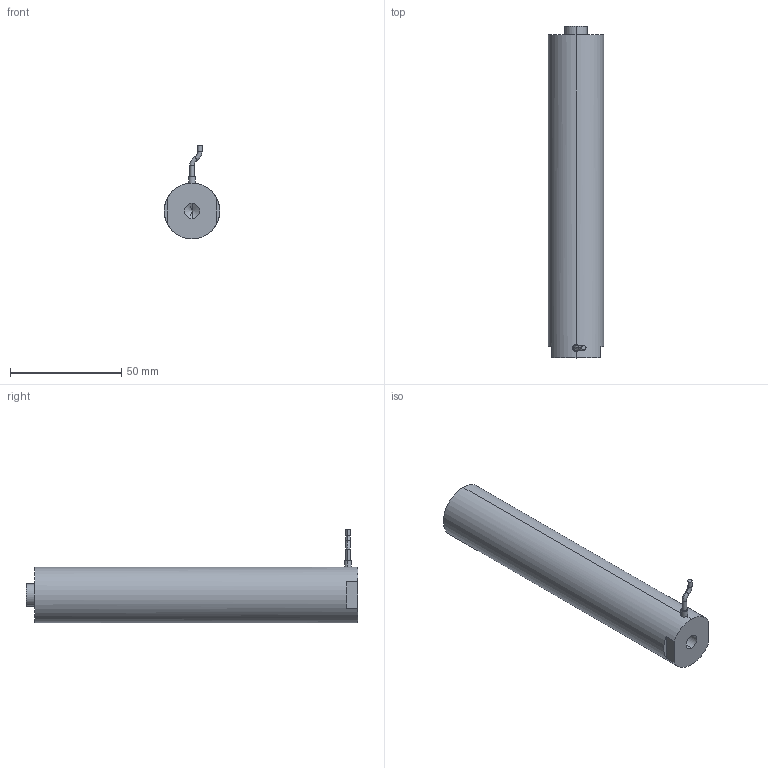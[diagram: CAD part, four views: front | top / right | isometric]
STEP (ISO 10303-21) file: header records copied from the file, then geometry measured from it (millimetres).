
FILE_DESCRIPTION (( 'STEP AP203' ), '1' );
FILE_NAME ('ﾆｽﾍｷﾊｽ140VS25.STEP', '2021-07-08T07:32:49', ( 'ﾎ｢ﾈ橆ﾃｻｧ' ), ( 'ﾎ｢ﾈ晥ｫﾋｾ' ), 'SwSTEP 2.0', 'SolidWorks 2016', '' );
FILE_SCHEMA (( 'CONFIG_CONTROL_DESIGN' ));
Products named in the file (1): ƽͷʽ140VS25
Bounding box: 25 x 149 x 42.06 mm (x, y, z)
Volume: 71024.8 mm3; surface area: 12855.6 mm2
Topology: 1 solids, 1 shells, 951 faces, 2585 edges, 1719 vertices
Faces by surface type: bspline 513, plane 322, cylinder 110, torus 4, cone 2
Entity records: 44728 total; most frequent: CARTESIAN_POINT 25295, ORIENTED_EDGE 5166, EDGE_CURVE 2583, DIRECTION 2024, B_SPLINE_CURVE_WITH_KNOTS 1719, VERTEX_POINT 1719, EDGE_LOOP 1036, ADVANCED_FACE 951
